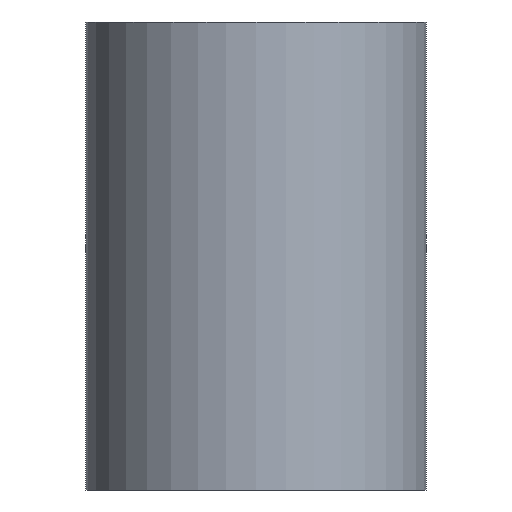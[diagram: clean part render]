
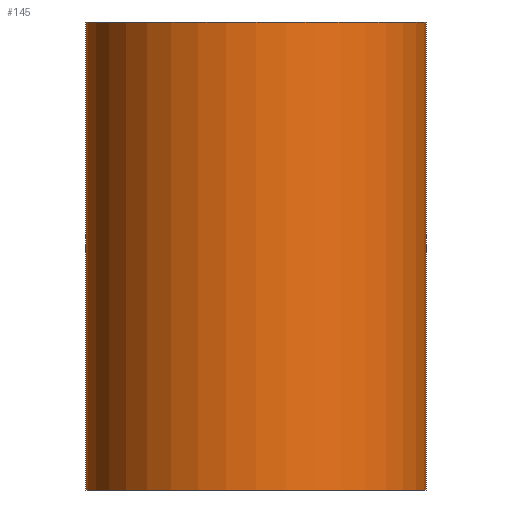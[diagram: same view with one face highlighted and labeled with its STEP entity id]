
A CAD part, front view. The second image highlights one B-rep face of the part: STEP entity #145.
In plain terms, the highlighted cylindrical face has radius 60 mm (diameter 120 mm), a full revolution.
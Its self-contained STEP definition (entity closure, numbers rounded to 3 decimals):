
#32=LINE('',#318,#36);
#36=VECTOR('',#269,60.);
#40=CYLINDRICAL_SURFACE('',#229,60.);
#49=FACE_OUTER_BOUND('',#58,.T.);
#58=EDGE_LOOP('',(#114,#115,#116,#117,#118,#119));
#67=CIRCLE('',#224,60.);
#68=CIRCLE('',#225,60.);
#71=CIRCLE('',#230,60.);
#72=CIRCLE('',#231,60.);
#79=VERTEX_POINT('',#303);
#80=VERTEX_POINT('',#304);
#83=VERTEX_POINT('',#314);
#84=VERTEX_POINT('',#315);
#91=EDGE_CURVE('',#79,#80,#67,.T.);
#92=EDGE_CURVE('',#80,#79,#68,.T.);
#96=EDGE_CURVE('',#83,#84,#71,.T.);
#97=EDGE_CURVE('',#84,#83,#72,.T.);
#98=EDGE_CURVE('',#84,#80,#32,.T.);
#114=ORIENTED_EDGE('',*,*,#96,.F.);
#115=ORIENTED_EDGE('',*,*,#97,.F.);
#116=ORIENTED_EDGE('',*,*,#98,.T.);
#117=ORIENTED_EDGE('',*,*,#91,.F.);
#118=ORIENTED_EDGE('',*,*,#92,.F.);
#119=ORIENTED_EDGE('',*,*,#98,.F.);
#145=ADVANCED_FACE('',(#49),#40,.T.);
#224=AXIS2_PLACEMENT_3D('',#305,#252,#253);
#225=AXIS2_PLACEMENT_3D('',#306,#254,#255);
#229=AXIS2_PLACEMENT_3D('',#313,#263,#264);
#230=AXIS2_PLACEMENT_3D('',#316,#265,#266);
#231=AXIS2_PLACEMENT_3D('',#317,#267,#268);
#252=DIRECTION('center_axis',(0.,0.,-1.));
#253=DIRECTION('ref_axis',(1.,0.,0.));
#254=DIRECTION('center_axis',(0.,0.,-1.));
#255=DIRECTION('ref_axis',(1.,0.,0.));
#263=DIRECTION('center_axis',(0.,0.,1.));
#264=DIRECTION('ref_axis',(1.,0.,0.));
#265=DIRECTION('center_axis',(0.,0.,1.));
#266=DIRECTION('ref_axis',(1.,0.,0.));
#267=DIRECTION('center_axis',(0.,0.,1.));
#268=DIRECTION('ref_axis',(1.,0.,0.));
#269=DIRECTION('',(0.,0.,-1.));
#303=CARTESIAN_POINT('',(60.,0.,-82.5));
#304=CARTESIAN_POINT('',(-60.,0.,-82.5));
#305=CARTESIAN_POINT('Origin',(0.,0.,-82.5));
#306=CARTESIAN_POINT('Origin',(0.,0.,-82.5));
#313=CARTESIAN_POINT('Origin',(0.,0.,0.));
#314=CARTESIAN_POINT('',(60.,0.,82.5));
#315=CARTESIAN_POINT('',(-60.,0.,82.5));
#316=CARTESIAN_POINT('Origin',(0.,0.,82.5));
#317=CARTESIAN_POINT('Origin',(0.,0.,82.5));
#318=CARTESIAN_POINT('',(-60.,0.,0.));
